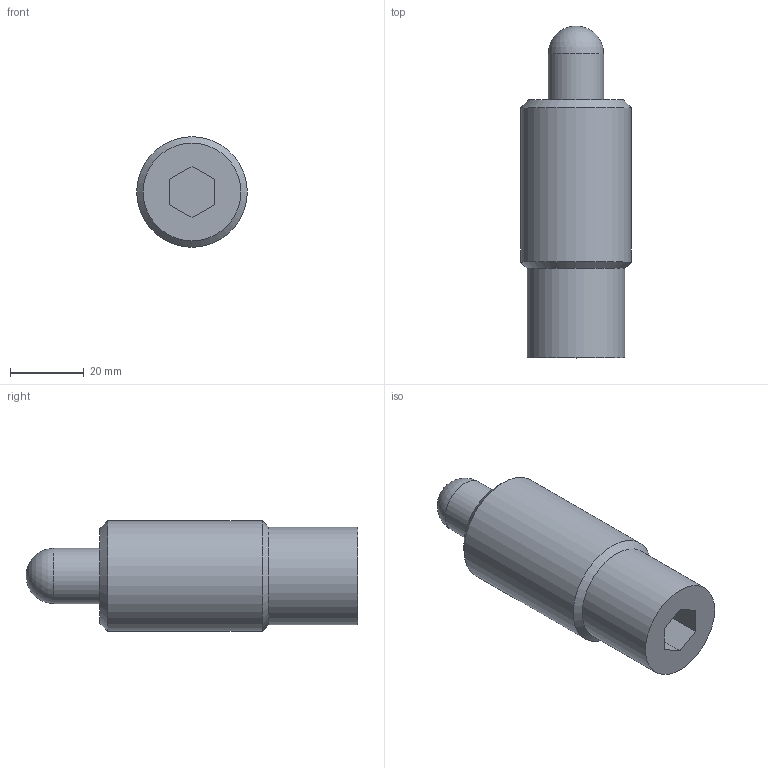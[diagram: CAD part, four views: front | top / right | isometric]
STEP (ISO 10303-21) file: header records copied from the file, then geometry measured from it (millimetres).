
FILE_DESCRIPTION( ( 'STEP AP203' ), '1' );
FILE_NAME( 'p:/temp/worker_11/temp/app_48_0201907041201005524390010e898ce_000000_00_00_000000/format_3/M314-04-018.stp', '2019-07-04T10:01:03', ( '' ), ( '' ), ' ', 'PARTsolutions', ' ' );
FILE_SCHEMA( ( 'CONFIG_CONTROL_DESIGN' ) );
Length unit declared in the file: millimetre
Products named in the file (1): _M314-04-018
Bounding box: 30 x 90 x 30 mm (x, y, z)
Volume: 46964.2 mm3; surface area: 8783.9 mm2
Topology: 1 solids, 1 shells, 15 faces, 32 edges, 20 vertices
Faces by surface type: plane 9, cylinder 3, cone 2, sphere 1
Full cylindrical faces by diameter (mm): 15 x1, 26.5 x1, 30 x1
Entity records: 410 total; most frequent: DIRECTION 64, CARTESIAN_POINT 61, ORIENTED_EDGE 50, EDGE_CURVE 25, AXIS2_PLACEMENT_3D 23, EDGE_LOOP 22, VERTEX_POINT 20, FACE_OUTER_BOUND 18
